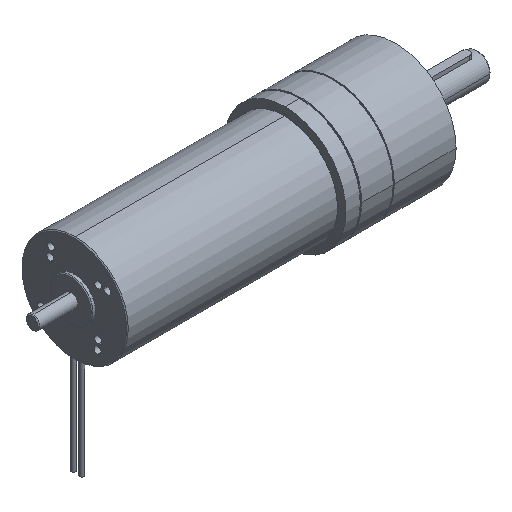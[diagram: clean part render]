
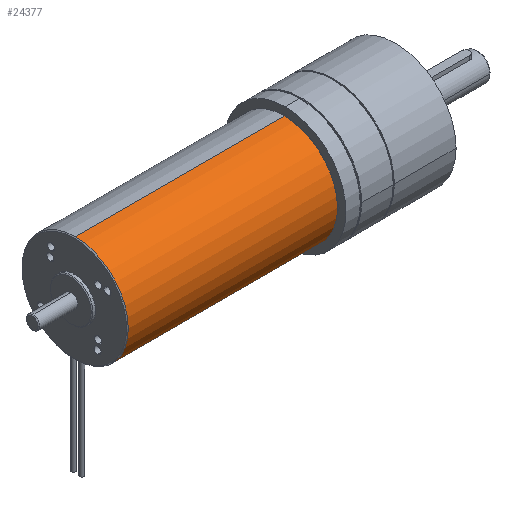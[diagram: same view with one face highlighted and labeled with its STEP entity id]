
A CAD part, isometric view. The second image highlights one B-rep face of the part: STEP entity #24377.
In plain terms, the highlighted cylindrical face has radius 31.5 mm (diameter 63 mm), a partial arc.
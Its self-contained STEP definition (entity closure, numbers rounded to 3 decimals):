
#55 = CARTESIAN_POINT ( 'NONE',  ( 27.554, -3.623, -31.291 ) ) ;
#82 = AXIS2_PLACEMENT_3D ( 'NONE', #509, #20443, #2569 ) ;
#199 = CARTESIAN_POINT ( 'NONE',  ( 27.826, -3.441, -31.312 ) ) ;
#348 = DIRECTION ( 'NONE',  ( 0., 0., 1. ) ) ;
#509 = CARTESIAN_POINT ( 'NONE',  ( 25.5, 0., 0. ) ) ;
#1144 = CARTESIAN_POINT ( 'NONE',  ( 27.328, -1.283, -31.474 ) ) ;
#1438 = CARTESIAN_POINT ( 'NONE',  ( 25.907, -1.871, -31.445 ) ) ;
#1754 = EDGE_CURVE ( 'NONE', #20029, #6409, #27610, .T. ) ;
#1902 = VECTOR ( 'NONE', #10367, 1000. ) ;
#2399 = CARTESIAN_POINT ( 'NONE',  ( 25.907, -3.128, -31.345 ) ) ;
#2406 = FACE_OUTER_BOUND ( 'NONE', #20346, .T. ) ;
#2425 = CARTESIAN_POINT ( 'NONE',  ( 28.25, -2.5, -31.401 ) ) ;
#2569 = DIRECTION ( 'NONE',  ( 0., 0., -1. ) ) ;
#2571 = AXIS2_PLACEMENT_3D ( 'NONE', #17230, #6161, #15055 ) ;
#3331 = CARTESIAN_POINT ( 'NONE',  ( 28.218, -2.173, -31.425 ) ) ;
#3631 = CARTESIAN_POINT ( 'NONE',  ( 27.942, -1.674, -31.456 ) ) ;
#4388 = B_SPLINE_CURVE_WITH_KNOTS ( 'NONE', 3,
 ( #19048, #21057, #3331, #10174, #18750, #27881, #3631, #7971, #25684, #1144, #16716, #10022, #23517, #12500, #23663, #21351, #1438, #19185, #12628, #28024, #25836, #19336 ),
 .UNSPECIFIED., .F., .F.,
 ( 4, 2, 2, 2, 2, 2, 2, 2, 2, 2, 4 ),
 ( 0., 0., 0.001, 0.001, 0.001, 0.002, 0.002, 0.003, 0.003, 0.004, 0.004 ),
 .UNSPECIFIED. ) ;
#4731 = CARTESIAN_POINT ( 'NONE',  ( 27.999, -3.268, -31.33 ) ) ;
#4736 = FACE_BOUND ( 'NONE', #13303, .T. ) ;
#5500 = EDGE_CURVE ( 'NONE', #20029, #16452, #23742, .T. ) ;
#5745 = DIRECTION ( 'NONE',  ( -1., 0., 0. ) ) ;
#6161 = DIRECTION ( 'NONE',  ( -1., 0., 0. ) ) ;
#6409 = VERTEX_POINT ( 'NONE', #25033 ) ;
#6623 = CARTESIAN_POINT ( 'NONE',  ( 28.25, -2.5, -31.401 ) ) ;
#6767 = CARTESIAN_POINT ( 'NONE',  ( 28.217, -2.829, -31.373 ) ) ;
#6918 = CARTESIAN_POINT ( 'NONE',  ( 28.25, -2.665, -31.387 ) ) ;
#7971 = CARTESIAN_POINT ( 'NONE',  ( 27.769, -1.501, -31.464 ) ) ;
#8180 = VECTOR ( 'NONE', #5745, 1000. ) ;
#10022 = CARTESIAN_POINT ( 'NONE',  ( 26.837, -1.25, -31.475 ) ) ;
#10050 = ORIENTED_EDGE ( 'NONE', *, *, #14580, .T. ) ;
#10174 = CARTESIAN_POINT ( 'NONE',  ( 28.124, -1.946, -31.44 ) ) ;
#10367 = DIRECTION ( 'NONE',  ( -1., 0., 0. ) ) ;
#10988 = CARTESIAN_POINT ( 'NONE',  ( 25.75, -2.5, -31.401 ) ) ;
#11135 = CARTESIAN_POINT ( 'NONE',  ( 26.368, -3.591, -31.295 ) ) ;
#11430 = CYLINDRICAL_SURFACE ( 'NONE', #24858, 31.5 ) ;
#12451 = VERTEX_POINT ( 'NONE', #20828 ) ;
#12500 = CARTESIAN_POINT ( 'NONE',  ( 26.37, -1.408, -31.469 ) ) ;
#12628 = CARTESIAN_POINT ( 'NONE',  ( 25.79, -2.176, -31.425 ) ) ;
#12705 = CIRCLE ( 'NONE', #82, 31.5 ) ;
#13303 = EDGE_LOOP ( 'NONE', ( #19128, #10050 ) ) ;
#13453 = ORIENTED_EDGE ( 'NONE', *, *, #19157, .T. ) ;
#14580 = EDGE_CURVE ( 'NONE', #12451, #18658, #28087, .T. ) ;
#15028 = LINE ( 'NONE', #28368, #1902 ) ;
#15055 = DIRECTION ( 'NONE',  ( 0., 0., 1. ) ) ;
#15360 = CARTESIAN_POINT ( 'NONE',  ( 27.164, -3.75, -31.276 ) ) ;
#15660 = VERTEX_POINT ( 'NONE', #26190 ) ;
#15786 = CARTESIAN_POINT ( 'NONE',  ( 28.092, -3.129, -31.345 ) ) ;
#16452 = VERTEX_POINT ( 'NONE', #22644 ) ;
#16716 = CARTESIAN_POINT ( 'NONE',  ( 27.164, -1.25, -31.475 ) ) ;
#17230 = CARTESIAN_POINT ( 'NONE',  ( 149.5, 0., 0. ) ) ;
#17539 = CARTESIAN_POINT ( 'NONE',  ( 26., -3.267, -31.33 ) ) ;
#18013 = ORIENTED_EDGE ( 'NONE', *, *, #18594, .T. ) ;
#18594 = EDGE_CURVE ( 'NONE', #15660, #16452, #12705, .T. ) ;
#18658 = VERTEX_POINT ( 'NONE', #2425 ) ;
#18750 = CARTESIAN_POINT ( 'NONE',  ( 28.085, -1.875, -31.444 ) ) ;
#19048 = CARTESIAN_POINT ( 'NONE',  ( 28.25, -2.5, -31.401 ) ) ;
#19128 = ORIENTED_EDGE ( 'NONE', *, *, #20975, .T. ) ;
#19157 = EDGE_CURVE ( 'NONE', #6409, #15660, #15028, .T. ) ;
#19185 = CARTESIAN_POINT ( 'NONE',  ( 25.814, -2.098, -31.43 ) ) ;
#19336 = CARTESIAN_POINT ( 'NONE',  ( 25.75, -2.5, -31.401 ) ) ;
#19716 = CARTESIAN_POINT ( 'NONE',  ( 25.75, -2.663, -31.388 ) ) ;
#20029 = VERTEX_POINT ( 'NONE', #24102 ) ;
#20138 = CARTESIAN_POINT ( 'NONE',  ( 26.834, -3.75, -31.276 ) ) ;
#20346 = EDGE_LOOP ( 'NONE', ( #22764, #27797, #13453, #18013 ) ) ;
#20443 = DIRECTION ( 'NONE',  ( 1., 0., 0. ) ) ;
#20828 = CARTESIAN_POINT ( 'NONE',  ( 25.75, -2.5, -31.401 ) ) ;
#20975 = EDGE_CURVE ( 'NONE', #18658, #12451, #4388, .T. ) ;
#21057 = CARTESIAN_POINT ( 'NONE',  ( 28.25, -2.335, -31.414 ) ) ;
#21351 = CARTESIAN_POINT ( 'NONE',  ( 25.999, -1.733, -31.452 ) ) ;
#21581 = CARTESIAN_POINT ( 'NONE',  ( -195.728, 0., -31.5 ) ) ;
#22644 = CARTESIAN_POINT ( 'NONE',  ( 25.5, 0., -31.5 ) ) ;
#22764 = ORIENTED_EDGE ( 'NONE', *, *, #5500, .F. ) ;
#23517 = CARTESIAN_POINT ( 'NONE',  ( 26.673, -1.282, -31.474 ) ) ;
#23663 = CARTESIAN_POINT ( 'NONE',  ( 26.232, -1.5, -31.464 ) ) ;
#23742 = LINE ( 'NONE', #21581, #8180 ) ;
#24102 = CARTESIAN_POINT ( 'NONE',  ( 149.5, 0., -31.5 ) ) ;
#24377 = ADVANCED_FACE ( 'NONE', ( #2406, #4736 ), #11430, .T. ) ;
#24488 = CARTESIAN_POINT ( 'NONE',  ( 27.327, -3.718, -31.28 ) ) ;
#24623 = CARTESIAN_POINT ( 'NONE',  ( 25.783, -2.827, -31.373 ) ) ;
#24858 = AXIS2_PLACEMENT_3D ( 'NONE', #26505, #28560, #348 ) ;
#25033 = CARTESIAN_POINT ( 'NONE',  ( 149.5, 0., 31.5 ) ) ;
#25684 = CARTESIAN_POINT ( 'NONE',  ( 27.629, -1.408, -31.469 ) ) ;
#25836 = CARTESIAN_POINT ( 'NONE',  ( 25.75, -2.419, -31.407 ) ) ;
#26190 = CARTESIAN_POINT ( 'NONE',  ( 25.5, 0., 31.5 ) ) ;
#26363 = CARTESIAN_POINT ( 'NONE',  ( 26.671, -3.717, -31.28 ) ) ;
#26499 = CARTESIAN_POINT ( 'NONE',  ( 27.762, -3.494, -31.306 ) ) ;
#26505 = CARTESIAN_POINT ( 'NONE',  ( -195.728, 0., 0. ) ) ;
#26653 = CARTESIAN_POINT ( 'NONE',  ( 26.23, -3.498, -31.305 ) ) ;
#27610 = CIRCLE ( 'NONE', #2571, 31.5 ) ;
#27797 = ORIENTED_EDGE ( 'NONE', *, *, #1754, .T. ) ;
#27881 = CARTESIAN_POINT ( 'NONE',  ( 27.995, -1.739, -31.452 ) ) ;
#28024 = CARTESIAN_POINT ( 'NONE',  ( 25.758, -2.336, -31.413 ) ) ;
#28087 = B_SPLINE_CURVE_WITH_KNOTS ( 'NONE', 3,
 ( #10988, #19716, #24623, #2399, #17539, #26653, #11135, #26363, #20138, #15360, #24488, #55, #28709, #26499, #199, #4731, #15786, #6767, #6918, #6623 ),
 .UNSPECIFIED., .F., .F.,
 ( 4, 2, 2, 2, 2, 2, 2, 2, 2, 4 ),
 ( 0.004, 0.004, 0.005, 0.005, 0.006, 0.006, 0.007, 0.007, 0.007, 0.008 ),
 .UNSPECIFIED. ) ;
#28368 = CARTESIAN_POINT ( 'NONE',  ( -195.728, 0., 31.5 ) ) ;
#28560 = DIRECTION ( 'NONE',  ( -1., 0., 0. ) ) ;
#28709 = CARTESIAN_POINT ( 'NONE',  ( 27.626, -3.585, -31.295 ) ) ;
